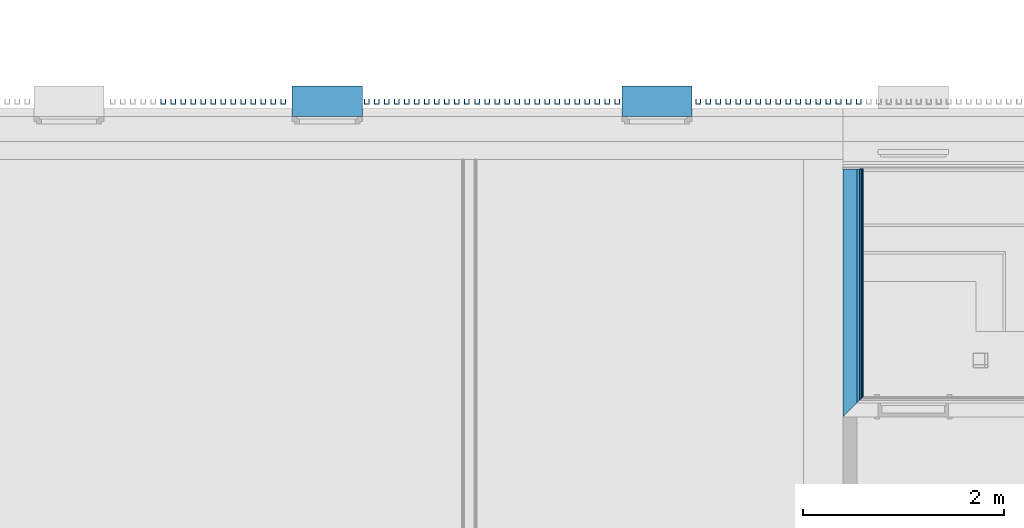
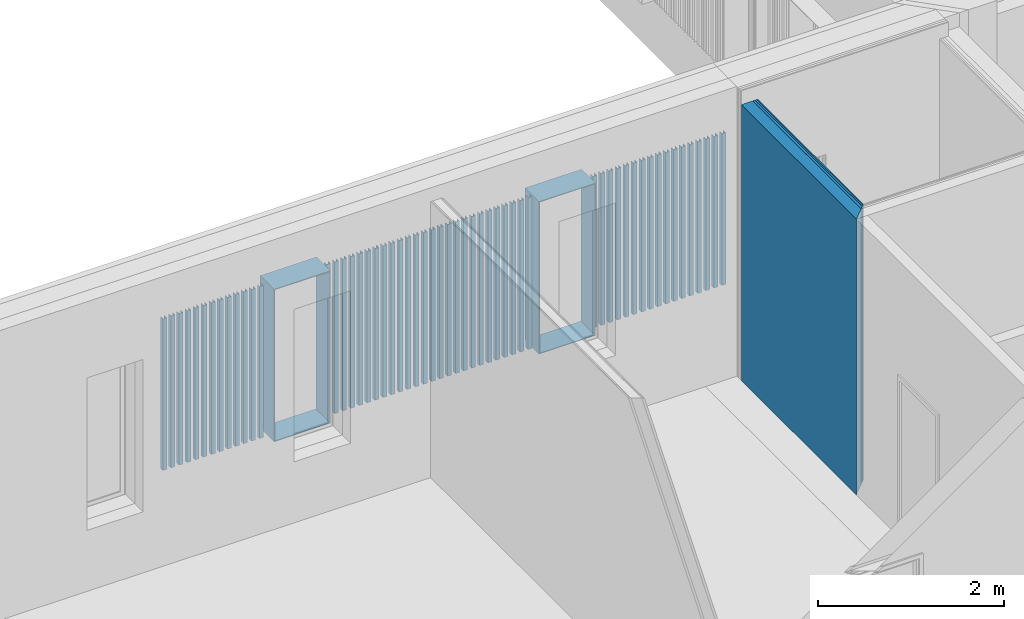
# One storey, part 34 of 100: 58 discrete accessories, 4 building element parts, 1 element without a shape of its own.
"""IFC2X3 building model written with IfcOpenShell, lengths in millimetres."""

from ifc_helpers import new_model, entity, si_unit, converted_unit, derived_unit, money_unit, direction, frame, origin_with_axes, place, context, subcontext, project, spatial, polyline, outline, extrude, faceted_brep, source, transform, mapped, material, type_object, element, aggregate, save


model = new_model("IFC2X3")

# Units and contexts
model_context = context("Model", 3, precision=0.01, world=origin_with_axes(), true_north=direction((0.0, 1.0)))
body_context = subcontext(model_context, "Body", "Model", "MODEL_VIEW")
ifc_project = project(units=[si_unit("LENGTHUNIT", "METRE", prefix="MILLI"), si_unit("AREAUNIT", "SQUARE_METRE"), si_unit("VOLUMEUNIT", "CUBIC_METRE"), converted_unit("PLANEANGLEUNIT", "DEGREE", entity("IfcPlaneAngleMeasure", 0.0174532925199), si_unit("PLANEANGLEUNIT", "RADIAN"), dimensions=[0, 0, 0, 0, 0, 0, 0]), si_unit("SOLIDANGLEUNIT", "STERADIAN"), money_unit("EUR"), converted_unit("TIMEUNIT", "Year", entity("IfcTimeMeasure", 31556926.0), si_unit("TIMEUNIT", "SECOND"), dimensions=[0, 0, 1, 0, 0, 0, 0]), si_unit("MASSUNIT", "GRAM", prefix="KILO"), si_unit("THERMODYNAMICTEMPERATUREUNIT", "DEGREE_CELSIUS"), si_unit("LUMINOUSINTENSITYUNIT", "LUMEN"), si_unit("ENERGYUNIT", "JOULE", prefix="MEGA"), derived_unit("THERMALCONDUCTANCEUNIT", [(si_unit("POWERUNIT", "WATT"), 1), (si_unit("LENGTHUNIT", "METRE"), -1), (si_unit("THERMODYNAMICTEMPERATUREUNIT", "KELVIN"), -1)]), derived_unit("SPECIFICHEATCAPACITYUNIT", [(si_unit("ENERGYUNIT", "JOULE"), 1), (si_unit("MASSUNIT", "GRAM", prefix="KILO"), -1), (si_unit("THERMODYNAMICTEMPERATUREUNIT", "KELVIN"), -1)]), derived_unit("MASSDENSITYUNIT", [(si_unit("MASSUNIT", "GRAM", prefix="KILO"), 1), (si_unit("VOLUMEUNIT", "CUBIC_METRE"), -1)])], contexts=[model_context])

# Site, building, storey
site_placement = place(None, origin_with_axes())
site = spatial("IfcSite", under=ifc_project, at=site_placement, Name="Politse- ja Piirivalveameti ning Päästeameti ühishoone", CompositionType="ELEMENT")
building_placement = place(site_placement, origin_with_axes())
building = spatial("IfcBuilding", under=site, at=building_placement, Name="Politse- ja Piirivalveameti ning Päästeameti ühishoone", CompositionType="ELEMENT")
storey_placement = place(building_placement, frame((0.0, 0.0, 3800.0), z_axis=(0.0, 0.0, 1.0), x_axis=(1.0, 0.0, 0.0)))
storey = spatial("IfcBuildingStorey", under=building, at=storey_placement, Name="Teine korrus", CompositionType="ELEMENT", Elevation=3800.0)

# Discrete accessories
ifc_material_1 = material(Name="SV-01_Krohv - Kips")
discrete_accessory_type_1 = type_object("IfcDiscreteAccessoryType", Name="Architrave 01 23")
shared_shape_1 = source(origin_with_axes(), body_context, "Body", "Brep", [
    faceted_brep([(350.0, 0.0, -10.0), (350.0, -300.182356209, -10.0), (-350.0, -300.182356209, -10.0), (-350.0, 0.0, -10.0), (340.0, 0.0, 0.0), (340.0, -300.182356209, 0.0), (-340.0, -300.182356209, 0.0), (-340.0, 0.0, 0.0)], [[[0, 1, 2, 3]], [[4, 5, 1, 0]], [[1, 5, 6, 2]], [[3, 2, 6, 7]], [[0, 3, 7, 4]], [[7, 6, 5, 4]]]),
    faceted_brep([(-350.0, 0.0, -10.0), (-350.0, -300.182356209, -10.0), (-350.0, -300.182356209, 1990.0), (-350.0, 0.0, 1990.0), (-340.0, 0.0, 0.0), (-340.0, -300.182356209, 0.0), (-340.0, -300.182356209, 1980.0), (-340.0, 0.0, 1980.0)], [[[0, 1, 2, 3]], [[4, 5, 1, 0]], [[1, 5, 6, 2]], [[3, 2, 6, 7]], [[0, 3, 7, 4]], [[7, 6, 5, 4]]]),
    faceted_brep([(-350.0, 0.0, 1990.0), (-350.0, -300.182356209, 1990.0), (350.0, -300.182356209, 1990.0), (350.0, 0.0, 1990.0), (-340.0, 0.0, 1980.0), (-340.0, -300.182356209, 1980.0), (340.0, -300.182356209, 1980.0), (340.0, 0.0, 1980.0)], [[[0, 1, 2, 3]], [[4, 5, 1, 0]], [[1, 5, 6, 2]], [[3, 2, 6, 7]], [[0, 3, 7, 4]], [[7, 6, 5, 4]]]),
    faceted_brep([(350.0, 0.0, 1990.0), (350.0, -300.182356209, 1990.0), (350.0, -300.182356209, -10.0), (350.0, 0.0, -10.0), (340.0, 0.0, 1980.0), (340.0, -300.182356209, 1980.0), (340.0, -300.182356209, 0.0), (340.0, 0.0, 0.0)], [[[0, 1, 2, 3]], [[4, 5, 1, 0]], [[1, 5, 6, 2]], [[3, 2, 6, 7]], [[0, 3, 7, 4]], [[7, 6, 5, 4]]]),
])
for number, where, z_axis, x_axis, name in (
    (1, (55546.2387824, 21429.9520134, 810.0), (0.0, 0.0, 1.0), (-1.0, 0.0, 0.0), "AKNARAAM 01"),
    (2, (52258.6678403, 21429.9520134, 810.0), (0.0, 0.0, 1.0), (-1.0, 0.0, 0.0), "AKNARAAM 01"),
):
    element("IfcDiscreteAccessory", number, at=place(storey_placement, frame(where, z_axis=z_axis, x_axis=x_axis)), inside=storey, type_object=discrete_accessory_type_1, material=ifc_material_1, Name=name, context=body_context, shape_type="MappedRepresentation", body=[
        mapped(shared_shape_1, transform((0.0, 0.0, 0.0))),
    ])
ifc_material_2 = material(Name="ET-05_Teras")
discrete_accessory_type_2 = type_object("IfcDiscreteAccessoryType", Name="UAP Column 23")
shared_shape_2 = source(origin_with_axes(), body_context, "Body", "Brep", [
    faceted_brep([(-25.0, -25.0, 0.0), (-25.0, -25.0, 1990.0), (-25.0, -20.0, 1990.0), (-25.0, -20.0, 0.0), (25.0, -25.0, 0.0), (25.0, -25.0, 1990.0), (25.0, 25.0, 1990.0), (-25.0, 25.0, 1990.0), (-25.0, 20.0, 1990.0), (8.5, 20.0, 1990.0), (14.25, 18.4592921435, 1990.0), (18.4592921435, 14.25, 1990.0), (20.0, 8.5, 1990.0), (20.0, -8.5, 1990.0), (18.4592921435, -14.25, 1990.0), (14.25, -18.4592921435, 1990.0), (8.5, -20.0, 1990.0), (8.5, -20.0, 0.0), (14.25, -18.4592921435, 0.0), (18.4592921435, -14.25, 0.0), (20.0, -8.5, 0.0), (20.0, 8.5, 0.0), (18.4592921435, 14.25, 0.0), (14.25, 18.4592921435, 0.0), (8.5, 20.0, 0.0), (-25.0, 20.0, 0.0), (-25.0, 25.0, 0.0), (25.0, 25.0, 0.0)], [[[0, 1, 2, 3]], [[4, 5, 1, 0]], [[1, 5, 6, 7, 8, 9, 10, 11, 12, 13, 14, 15, 16, 2]], [[3, 2, 16, 17]], [[0, 3, 17, 18, 19, 20, 21, 22, 23, 24, 25, 26, 27, 4]], [[27, 6, 5, 4]], [[26, 7, 6, 27]], [[25, 8, 7, 26]], [[24, 9, 8, 25]], [[23, 10, 9, 24]], [[22, 11, 10, 23]], [[21, 12, 11, 22]], [[20, 13, 12, 21]], [[19, 14, 13, 20]], [[18, 15, 14, 19]], [[17, 16, 15, 18]]]),
])
for number, where, z_axis, x_axis in (
    (3, (54252.2387792, 21574.5962075, 810.000049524), (0.0, 0.0, 1.0), (1.30049800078e-07, -1.0, 0.0)),
    (4, (54352.2387792, 21574.5962205, 810.000049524), (0.0, 0.0, 1.0), (1.30049800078e-07, -1.0, 0.0)),
    (5, (54452.2387792, 21574.5962336, 810.000049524), (0.0, 0.0, 1.0), (1.30049800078e-07, -1.0, 0.0)),
    (6, (54552.2387792, 21574.5962466, 810.000049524), (0.0, 0.0, 1.0), (1.30049800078e-07, -1.0, 0.0)),
    (7, (54652.2387792, 21574.5962596, 810.000049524), (0.0, 0.0, 1.0), (1.30049800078e-07, -1.0, 0.0)),
    (8, (54752.2387792, 21574.5962726, 810.000049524), (0.0, 0.0, 1.0), (1.30049800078e-07, -1.0, 0.0)),
    (9, (54852.2387792, 21574.5962856, 810.000049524), (0.0, 0.0, 1.0), (1.30049800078e-07, -1.0, 0.0)),
    (10, (53852.2387792, 21574.5961555, 810.000049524), (0.0, 0.0, 1.0), (1.30049800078e-07, -1.0, 0.0)),
    (11, (53952.2387792, 21574.5961685, 810.000049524), (0.0, 0.0, 1.0), (1.30049800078e-07, -1.0, 0.0)),
    (12, (54052.2387792, 21574.5961815, 810.000049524), (0.0, 0.0, 1.0), (1.30049800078e-07, -1.0, 0.0)),
    (13, (54152.2387792, 21574.5961945, 810.000049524), (0.0, 0.0, 1.0), (1.30049800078e-07, -1.0, 0.0)),
    (14, (53552.2387792, 21574.5961165, 810.000049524), (0.0, 0.0, 1.0), (1.30049800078e-07, -1.0, 0.0)),
    (15, (53652.2387792, 21574.5961295, 810.000049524), (0.0, 0.0, 1.0), (1.30049800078e-07, -1.0, 0.0)),
    (16, (53752.2387792, 21574.5961425, 810.000049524), (0.0, 0.0, 1.0), (1.30049800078e-07, -1.0, 0.0)),
    (17, (54952.2387792, 21574.5962986, 810.000049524), (0.0, 0.0, 1.0), (1.30049800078e-07, -1.0, 0.0)),
    (18, (55052.2387792, 21574.5963116, 810.000049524), (0.0, 0.0, 1.0), (1.30049800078e-07, -1.0, 0.0)),
    (19, (55152.2387792, 21574.5963246, 810.000049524), (0.0, 0.0, 1.0), (1.30049800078e-07, -1.0, 0.0)),
    (20, (53252.2387792, 21574.5960775, 810.000049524), (0.0, 0.0, 1.0), (1.30049800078e-07, -1.0, 0.0)),
    (21, (53352.2387792, 21574.5960905, 810.000049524), (0.0, 0.0, 1.0), (1.30049800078e-07, -1.0, 0.0)),
    (22, (53452.2387792, 21574.5961035, 810.000049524), (0.0, 0.0, 1.0), (1.30049800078e-07, -1.0, 0.0)),
    (23, (52952.2387792, 21574.5960385, 810.000049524), (0.0, 0.0, 1.0), (1.30049800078e-07, -1.0, 0.0)),
    (24, (53052.2387792, 21574.5960515, 810.000049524), (0.0, 0.0, 1.0), (1.30049800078e-07, -1.0, 0.0)),
    (25, (53152.2387792, 21574.5960645, 810.000049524), (0.0, 0.0, 1.0), (1.30049800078e-07, -1.0, 0.0)),
    (26, (52752.2387792, 21574.5960125, 810.000049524), (0.0, 0.0, 1.0), (1.30049800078e-07, -1.0, 0.0)),
    (27, (52852.2387792, 21574.5960255, 810.000049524), (0.0, 0.0, 1.0), (1.30049800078e-07, -1.0, 0.0)),
    (28, (52652.2387792, 21574.5960125, 810.000049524), (0.0, 0.0, 1.0), (1.30049800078e-07, -1.0, 0.0)),
    (29, (51621.667837, 21574.5962075, 810.000049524), (0.0, 0.0, 1.0), (1.30049800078e-07, -1.0, 0.0)),
    (30, (51721.667837, 21574.5962205, 810.000049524), (0.0, 0.0, 1.0), (1.30049800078e-07, -1.0, 0.0)),
    (31, (51821.667837, 21574.5962336, 810.000049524), (0.0, 0.0, 1.0), (1.30049800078e-07, -1.0, 0.0)),
    (32, (51221.667837, 21574.5961555, 810.000049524), (0.0, 0.0, 1.0), (1.30049800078e-07, -1.0, 0.0)),
    (33, (51321.667837, 21574.5961685, 810.000049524), (0.0, 0.0, 1.0), (1.30049800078e-07, -1.0, 0.0)),
    (34, (51421.667837, 21574.5961815, 810.000049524), (0.0, 0.0, 1.0), (1.30049800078e-07, -1.0, 0.0)),
    (35, (51521.667837, 21574.5961945, 810.000049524), (0.0, 0.0, 1.0), (1.30049800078e-07, -1.0, 0.0)),
    (36, (50921.667837, 21574.5961165, 810.000049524), (0.0, 0.0, 1.0), (1.30049800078e-07, -1.0, 0.0)),
    (37, (51021.667837, 21574.5961295, 810.000049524), (0.0, 0.0, 1.0), (1.30049800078e-07, -1.0, 0.0)),
    (38, (51121.667837, 21574.5961425, 810.000049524), (0.0, 0.0, 1.0), (1.30049800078e-07, -1.0, 0.0)),
    (39, (50621.667837, 21574.5960775, 810.000049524), (0.0, 0.0, 1.0), (1.30049800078e-07, -1.0, 0.0)),
    (40, (50721.667837, 21574.5960905, 810.000049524), (0.0, 0.0, 1.0), (1.30049800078e-07, -1.0, 0.0)),
    (41, (50821.667837, 21574.5961035, 810.000049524), (0.0, 0.0, 1.0), (1.30049800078e-07, -1.0, 0.0)),
    (42, (56157.0169791, 21574.5963246, 810.000049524), (0.0, 0.0, 1.0), (1.30049800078e-07, -1.0, 0.0)),
    (43, (56057.0169791, 21574.5963116, 810.000049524), (0.0, 0.0, 1.0), (1.30049800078e-07, -1.0, 0.0)),
    (44, (55957.0169791, 21574.5962986, 810.000049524), (0.0, 0.0, 1.0), (1.30049800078e-07, -1.0, 0.0)),
    (45, (56457.0169791, 21574.5963246, 810.000049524), (0.0, 0.0, 1.0), (1.30049800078e-07, -1.0, 0.0)),
    (46, (56357.0169791, 21574.5963116, 810.000049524), (0.0, 0.0, 1.0), (1.30049800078e-07, -1.0, 0.0)),
    (47, (56257.0169791, 21574.5962986, 810.000049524), (0.0, 0.0, 1.0), (1.30049800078e-07, -1.0, 0.0)),
    (48, (56757.0169791, 21574.5963246, 810.000049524), (0.0, 0.0, 1.0), (1.30049800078e-07, -1.0, 0.0)),
    (49, (56657.0169791, 21574.5963116, 810.000049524), (0.0, 0.0, 1.0), (1.30049800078e-07, -1.0, 0.0)),
    (50, (56557.0169791, 21574.5962986, 810.000049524), (0.0, 0.0, 1.0), (1.30049800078e-07, -1.0, 0.0)),
    (51, (57057.0169791, 21574.5963246, 810.000049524), (0.0, 0.0, 1.0), (1.30049800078e-07, -1.0, 0.0)),
    (52, (56957.0169791, 21574.5963116, 810.000049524), (0.0, 0.0, 1.0), (1.30049800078e-07, -1.0, 0.0)),
    (53, (56857.0169791, 21574.5962986, 810.000049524), (0.0, 0.0, 1.0), (1.30049800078e-07, -1.0, 0.0)),
    (54, (57357.0169791, 21574.5963246, 810.000049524), (0.0, 0.0, 1.0), (1.30049800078e-07, -1.0, 0.0)),
    (55, (57257.0169791, 21574.5963116, 810.000049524), (0.0, 0.0, 1.0), (1.30049800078e-07, -1.0, 0.0)),
    (56, (57157.0169791, 21574.5962986, 810.000049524), (0.0, 0.0, 1.0), (1.30049800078e-07, -1.0, 0.0)),
    (57, (57557.0169791, 21574.5963116, 810.000049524), (0.0, 0.0, 1.0), (1.30049800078e-07, -1.0, 0.0)),
    (58, (57457.0169791, 21574.5962986, 810.000049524), (0.0, 0.0, 1.0), (1.30049800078e-07, -1.0, 0.0)),
):
    element("IfcDiscreteAccessory", number, at=place(storey_placement, frame(where, z_axis=z_axis, x_axis=x_axis)), inside=storey, type_object=discrete_accessory_type_2, material=ifc_material_2, Name="Fassaadiribid", context=body_context, shape_type="MappedRepresentation", body=[
        mapped(shared_shape_2, transform((0.0, 0.0, 0.0))),
    ])

# Wall, building element parts
wall_type = type_object("IfcWallType", Name="SS-07_Sisesein - leiliruum 205", PredefinedType="NOTDEFINED")
wall_placement = place(storey_placement, frame((57400.5039025, 20904.9457852, 0.0), z_axis=(0.0, 0.0, 1.0), x_axis=(3.78215431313e-05, -0.999999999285, 0.0)))
wall = element("IfcWall", 59, at=wall_placement, inside=storey, type_object=wall_type, Name="SS-07")
ifc_material_3 = material(Name="ET-01_Puit - Konstruktsioon")
building_element_part_1_placement = place(wall_placement, origin_with_axes())
building_element_part_1 = element("IfcBuildingElementPart", 60, at=building_element_part_1_placement, material=ifc_material_3, Name="ET-01_Puit - Konstruktsioon", context=body_context, shape_type="SweptSolid", body=[
    extrude(outline(polyline([(0.0, 190.0), (2284.91082015, 190.0), (2269.91138747, 205.0), (0.0, 205.0), (0.0, 190.0)])), origin_with_axes(), (0.0, 0.0, 1.0), 3620.0),
])
ifc_material_4 = material(Name="Õhkvahe - Raam")
building_element_part_2_placement = place(wall_placement, origin_with_axes())
building_element_part_2 = element("IfcBuildingElementPart", 61, at=building_element_part_2_placement, material=ifc_material_4, Name="Õhkvahe - Raam", context=body_context, shape_type="SweptSolid", body=[
    extrude(outline(polyline([(0.0, 170.0), (2304.91006374, 170.0), (2284.91082015, 190.0), (0.0, 190.0), (0.0, 170.0)])), origin_with_axes(), (0.0, 0.0, 1.0), 3620.0),
])
ifc_material_5 = material(Name="SOJ-02_Soojustus - Fiiber Kõva")
building_element_part_3_placement = place(wall_placement, origin_with_axes())
building_element_part_3 = element("IfcBuildingElementPart", 62, at=building_element_part_3_placement, material=ifc_material_5, Name="SOJ-02_Soojustus - Fiiber Kõva", context=body_context, shape_type="SweptSolid", body=[
    extrude(outline(polyline([(0.0, 140.0), (2334.90892911, 140.0), (2304.91006374, 170.0), (0.0, 170.0), (0.0, 140.0)])), origin_with_axes(), (0.0, 0.0, 1.0), 3620.0),
])
ifc_material_6 = material(Name="KON-05_Betoon Plokk - Konstuktsioon")
building_element_part_4_placement = place(wall_placement, origin_with_axes())
building_element_part_4 = element("IfcBuildingElementPart", 63, at=building_element_part_4_placement, material=ifc_material_6, Name="KON-05_Betoon Plokk - Konstuktsioon", context=body_context, shape_type="SweptSolid", body=[
    extrude(outline(polyline([(0.0, 0.0), (2474.9036342, 0.0), (2334.90892911, 140.0), (0.0, 140.0), (0.0, 0.0)])), origin_with_axes(), (0.0, 0.0, 1.0), 3620.0),
])
aggregate(wall, [building_element_part_1, building_element_part_2, building_element_part_3, building_element_part_4])

save(model, "model.ifc")
